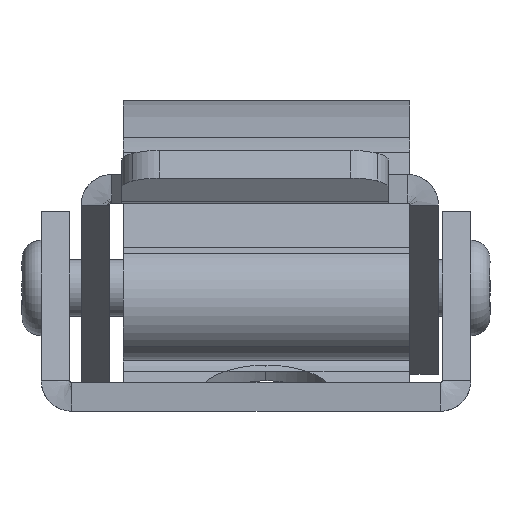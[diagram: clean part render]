
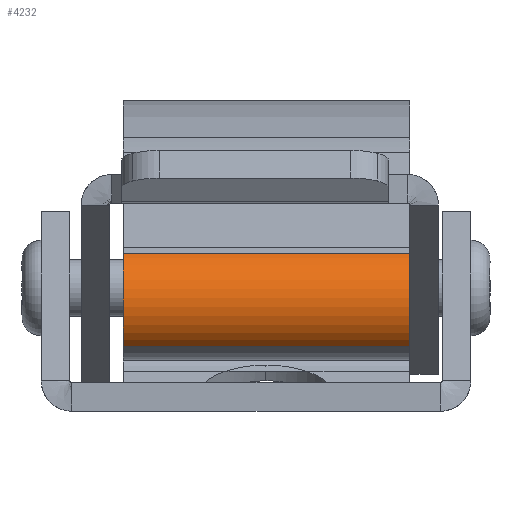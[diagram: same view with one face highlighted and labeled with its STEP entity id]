
A CAD part, left-side view. The second image highlights one B-rep face of the part: STEP entity #4232.
In plain terms, the highlighted cylindrical face has radius 3 mm (diameter 6 mm), a partial arc.
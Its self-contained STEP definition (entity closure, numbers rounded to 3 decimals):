
#4191=CARTESIAN_POINT('',(-5.665,14.609,10.073));
#4192=DIRECTION('',(1.0,0.,0.));
#4193=DIRECTION('',(0.,-0.639,-0.769));
#4194=AXIS2_PLACEMENT_3D('',#4191,#4192,#4193);
#4195=CYLINDRICAL_SURFACE('',#4194,3.);
#4196=CARTESIAN_POINT('',(-7.5,16.526,12.381));
#4197=VERTEX_POINT('',#4196);
#4198=CARTESIAN_POINT('',(7.5,16.526,12.381));
#4199=VERTEX_POINT('',#4198);
#4200=CARTESIAN_POINT('',(-7.5,16.526,12.381));
#4201=DIRECTION('',(1.0,0.,0.));
#4202=VECTOR('',#4201,15.);
#4203=LINE('',#4200,#4202);
#4204=EDGE_CURVE('',#4197,#4199,#4203,.T.);
#4205=ORIENTED_EDGE('',*,*,#4204,.T.);
#4206=CARTESIAN_POINT('',(7.5,16.109,7.475));
#4207=VERTEX_POINT('',#4206);
#4208=CARTESIAN_POINT('',(7.5,14.609,10.073));
#4209=DIRECTION('',(1.,0.,0.));
#4210=DIRECTION('',(0.,0.5,-0.866));
#4211=AXIS2_PLACEMENT_3D('',#4208,#4209,#4210);
#4212=CIRCLE('',#4211,3.);
#4213=EDGE_CURVE('',#4207,#4199,#4212,.T.);
#4214=ORIENTED_EDGE('',*,*,#4213,.F.);
#4215=CARTESIAN_POINT('',(-7.5,16.109,7.475));
#4216=VERTEX_POINT('',#4215);
#4217=CARTESIAN_POINT('',(-7.5,16.109,7.475));
#4218=DIRECTION('',(1.0,0.0,0.0));
#4219=VECTOR('',#4218,15.0);
#4220=LINE('',#4217,#4219);
#4221=EDGE_CURVE('',#4216,#4207,#4220,.T.);
#4222=ORIENTED_EDGE('',*,*,#4221,.F.);
#4223=CARTESIAN_POINT('',(-7.5,14.609,10.073));
#4224=DIRECTION('',(-1.,0.0,0.0));
#4225=DIRECTION('',(0.0,0.238,-0.971));
#4226=AXIS2_PLACEMENT_3D('',#4223,#4224,#4225);
#4227=CIRCLE('',#4226,3.);
#4228=EDGE_CURVE('',#4197,#4216,#4227,.T.);
#4229=ORIENTED_EDGE('',*,*,#4228,.F.);
#4230=EDGE_LOOP('',(#4205,#4214,#4222,#4229));
#4231=FACE_OUTER_BOUND('',#4230,.T.);
#4232=ADVANCED_FACE('',(#4231),#4195,.T.);
